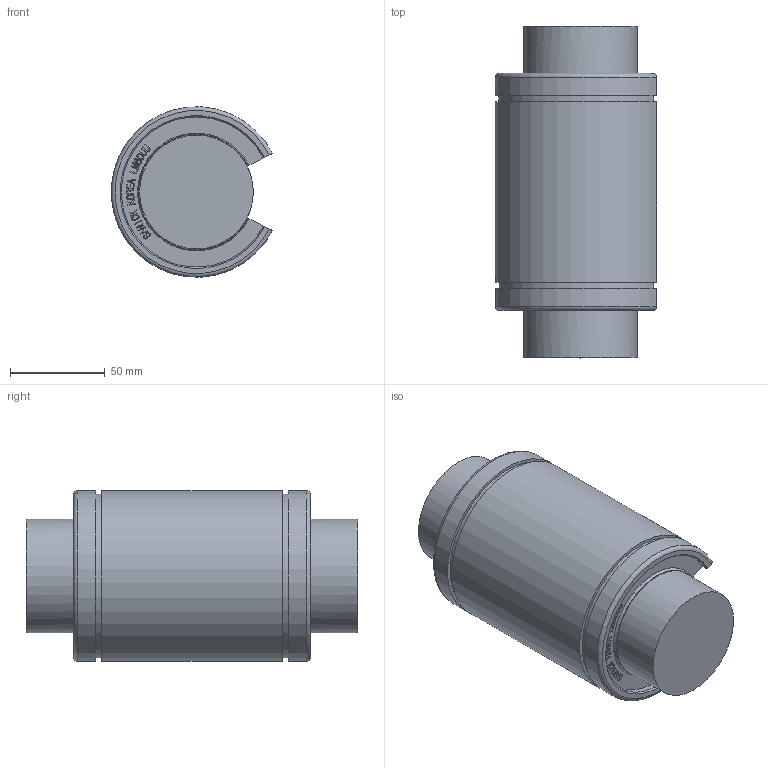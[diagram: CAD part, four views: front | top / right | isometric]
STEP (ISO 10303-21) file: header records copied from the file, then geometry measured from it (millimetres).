
FILE_DESCRIPTION(/* description */ (''),/* implementation_level */ '2;1');
FILE_NAME(/* name */ 'W:\(01) 2024년 홈페이지 CAD파일 최신화\LME_OP\IPT\LME60UUOP.stp',/* time_stamp */ '2025-01-25T10:18:31+09:00',/* author */ ('서우현'),/* organization */ (''),/* preprocessor_version */ 'ST-DEVELOPER v17.2',/* originating_system */ 'Autodesk Inventor 2019',/* authorisation */ '');
FILE_SCHEMA (('AUTOMOTIVE_DESIGN { 1 0 10303 214 3 1 1 }'));
Length unit declared in the file: millimetre
Products named in the file (1): LM5
Bounding box: 84.93 x 175 x 89.8 mm (x, y, z)
Volume: 854445.7 mm3; surface area: 61927.5 mm2
Topology: 1 solids, 1 shells, 836 faces, 2364 edges, 1576 vertices
Faces by surface type: bspline 600, plane 222, cylinder 8, cone 4, torus 2
Full cylindrical faces by diameter (mm): 60 x1
Entity records: 29278 total; most frequent: CARTESIAN_POINT 10889, ORIENTED_EDGE 4728, EDGE_CURVE 2364, DIRECTION 1670, VERTEX_POINT 1576, B_SPLINE_CURVE_WITH_KNOTS 1200, LINE 1132, VECTOR 1132
